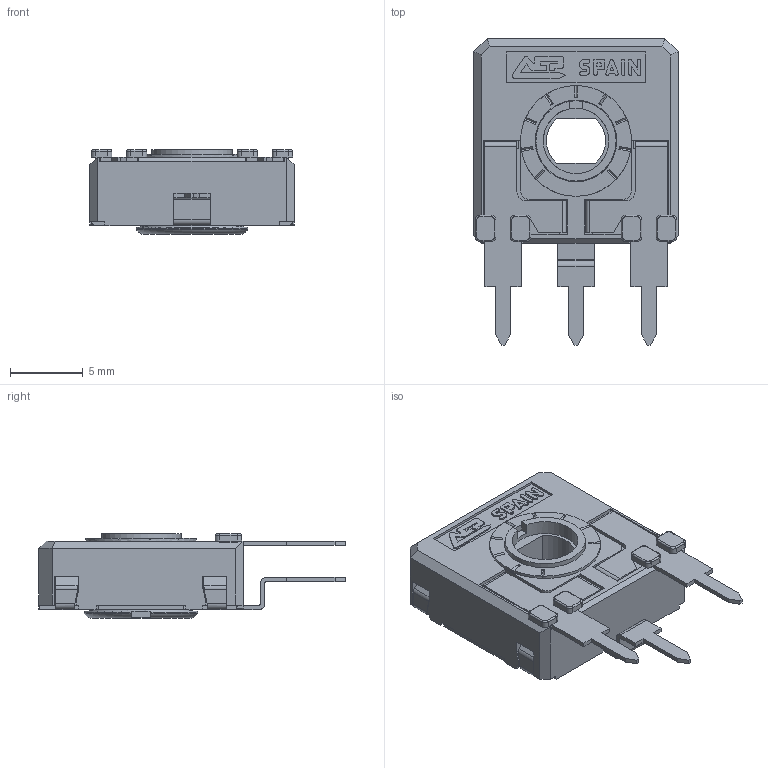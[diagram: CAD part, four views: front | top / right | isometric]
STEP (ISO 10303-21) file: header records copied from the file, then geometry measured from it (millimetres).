
FILE_DESCRIPTION(/* description */ (''),/* implementation_level */ '2;1');
FILE_NAME(/* name */ '\\SERVERACP\intercambio\Ignacio Santa Cecilia\Nueva WEB 2025\CA14 - CE14\CA14NH2,5.stp',/* time_stamp */ '2025-06-03T17:13:58+02:00',/* author */ ('CEM'),/* organization */ (''),/* preprocessor_version */ 'ST-DEVELOPER v17',/* originating_system */ 'Autodesk Inventor 2018',/* authorisation */ '');
FILE_SCHEMA (('AUTOMOTIVE_DESIGN { 1 0 10303 214 3 1 1 }'));
Length unit declared in the file: millimetre
Products named in the file (1): CA14NH2,5
Bounding box: 14 x 21 x 5.8 mm (x, y, z)
Volume: 532.4 mm3; surface area: 1461.1 mm2
Topology: 1 solids, 1 shells, 666 faces, 1881 edges, 1211 vertices
Faces by surface type: plane 494, cylinder 135, torus 23, bspline 8, cone 6
Full cylindrical faces by diameter (mm): 4.5 x1, 5.5 x1, 5.6 x1, 5.752 x1, 6.8 x1, 7.6 x1
Entity records: 21748 total; most frequent: CARTESIAN_POINT 4056, ORIENTED_EDGE 3762, DIRECTION 3509, EDGE_CURVE 1881, LINE 1481, VECTOR 1481, VERTEX_POINT 1211, AXIS2_PLACEMENT_3D 1014
